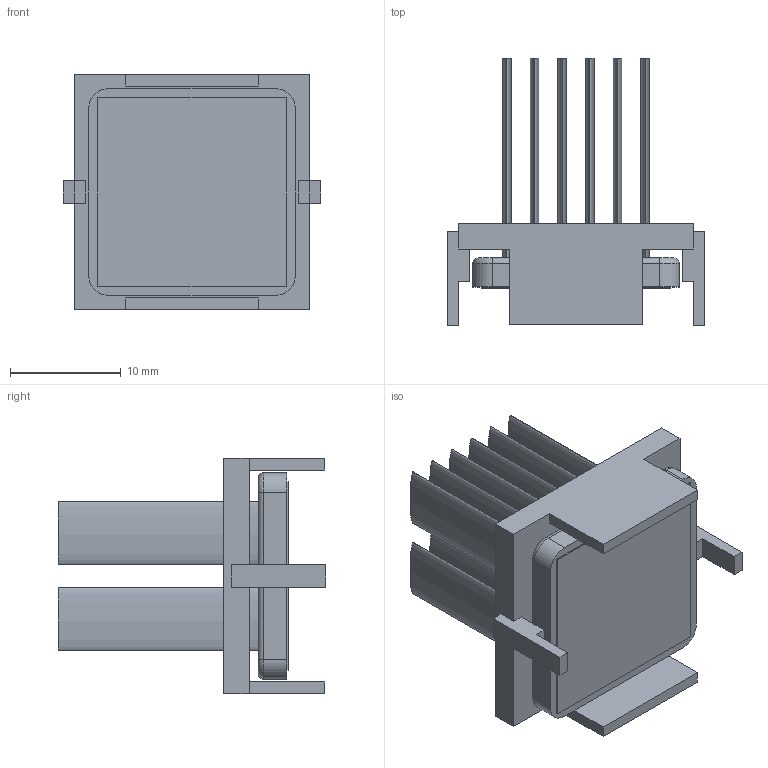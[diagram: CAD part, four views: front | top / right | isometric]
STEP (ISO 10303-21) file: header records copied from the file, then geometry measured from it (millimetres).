
FILE_DESCRIPTION (( 'STEP AP214' ), '1' );
FILE_NAME ('INM19001-21W-2.6Y.STEP', '2023-03-02T18:18:55', ( '' ), ( '' ), 'SwSTEP 2.0', 'SolidWorks 2020', '' );
FILE_SCHEMA (( 'AUTOMOTIVE_DESIGN' ));
Length unit declared in the file: millimetre
Products named in the file (1): INM19001-21W-2.6Y
Bounding box: 23.2 x 24.1 x 21.2 mm (x, y, z)
Volume: 2487.2 mm3; surface area: 5324.4 mm2
Topology: 3 solids, 3 shells, 106 faces, 256 edges, 168 vertices
Faces by surface type: plane 70, bspline 24, cylinder 8, torus 4
Entity records: 4330 total; most frequent: CARTESIAN_POINT 843, ORIENTED_EDGE 512, DIRECTION 394, EDGE_CURVE 256, LINE 188, VECTOR 188, VERTEX_POINT 168, EDGE_LOOP 120
